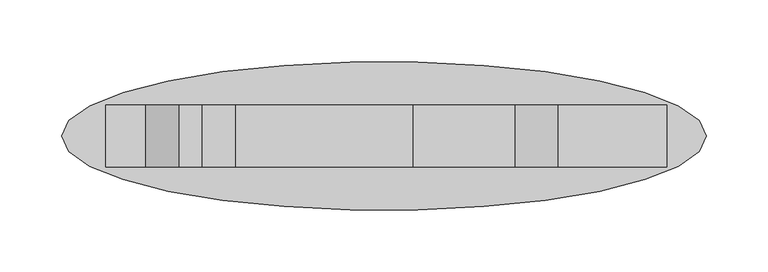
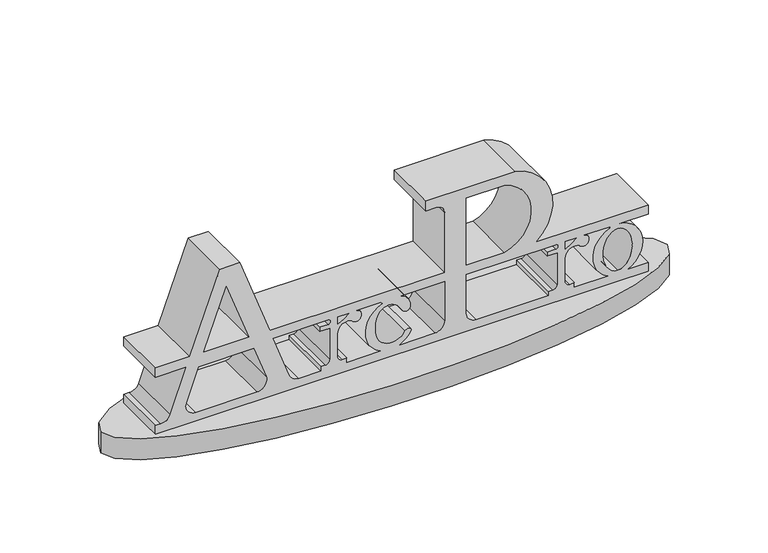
"""IFC4 building model written with IfcOpenShell, lengths in millimetres: proxy geometry, ArcPro Statue : ArcPro Statue."""

from ifc_helpers import new_model, si_unit, point, frame, origin, place, context, project, spatial, polyline, circle_curve, ellipse_curve, trimmed, source, transform, mapped, element, save
from ifc_brep_helpers import plane_surface, cylinder_surface, revolved_surface, extruded_surface, advanced_brep


def generic_models_adb6d911(model_context):
    return source(origin(), model_context, "Body", "AdvancedBrep", [
        advanced_brep(
        [(324.4251984, 0.0, 20.1942604), (-195.5748016, 0.0, 20.1942604), (324.4251984, 0.0, 0.0), (-195.5748016, 0.0, 0.0)],
        [
            (0, 1, ellipse_curve(frame((64.4251984, 0.0, 20.1942604), z_axis=(0.0, 0.0, 1.0), x_axis=(-1.0, 0.0, 0.0)), 260.0, 60.0)),
            (1, 0, ellipse_curve(frame((64.4251984, 0.0, 20.1942604), z_axis=(0.0, 0.0, 1.0), x_axis=(-1.0, 0.0, 0.0)), 260.0, 60.0)),
            (2, 3, ellipse_curve(frame((64.4251984, 0.0, 0.0), z_axis=(0.0, 0.0, -1.0), x_axis=(-1.0, 0.0, 0.0)), 260.0, 60.0)),
            (3, 2, ellipse_curve(frame((64.4251984, 0.0, 0.0), z_axis=(0.0, 0.0, -1.0), x_axis=(-1.0, 0.0, 0.0)), 260.0, 60.0)),
            (0, 2),
            (3, 1),
        ],
        [
            plane_surface(frame((-195.5748016, 0.0, 20.1942604), z_axis=(0.0, 0.0, 1.0), x_axis=(0.0, -1.0, 0.0))),
            plane_surface(frame((-195.5748016, 0.0, 0.0), z_axis=(0.0, 0.0, -1.0), x_axis=(0.0, 1.0, 0.0))),
            extruded_surface(trimmed(ellipse_curve(frame((64.4251984, 0.0, -20.1942604), z_axis=(0.0, 0.0, 1.0), x_axis=(-1.0, 0.0, 0.0)), 260.0, 60.0), [point((324.4251984, 0.0, -20.1942604))], [point((-195.5748016, 0.0, -20.1942604))], True, "CARTESIAN"), (0.0, 0.0, 20.1942604), 20.1942604),
            extruded_surface(trimmed(ellipse_curve(frame((64.4251984, 0.0, -20.1942604), z_axis=(0.0, 0.0, 1.0), x_axis=(-1.0, 0.0, 0.0)), 260.0, 60.0), [point((-195.5748016, 0.0, -20.1942604))], [point((324.4251984, 0.0, -20.1942604))], True, "CARTESIAN"), (0.0, 0.0, 20.1942604), 20.1942604),
        ],
        [
            (0, [[1, 2]]),
            (1, [[3, 4]]),
            (2, [[-1, 5, -4, 6]]),
            (3, [[-2, -6, -3, -5]]),
        ],
    ),
        advanced_brep(
        [(-159.9449231, -25.0, 28.9442604), (-159.9449231, -25.0, 20.1942604), (292.5550769, -25.0, 20.1942604), (292.5550769, -25.0, 28.9442604), (273.1751984, -25.0, 28.9442604), (264.2864752, -25.0, 75.8816405), (292.5550769, -25.0, 75.8816405), (292.5550769, -25.0, 84.8128453), (189.0734598, -25.0, 84.8128453), (170.4950353, -25.0, 160.0), (88.0915147, -25.0, 160.0), (88.0915147, -25.0, 150.6396934), (97.4851093, -25.0, 150.6396934), (105.4950353, -25.0, 142.6297673), (105.4950353, -25.0, 84.8128453), (-55.0790368, -25.0, 84.8128453), (-82.4449231, -25.0, 160.0), (-100.7641808, -25.0, 160.0), (-128.1300671, -25.0, 84.8128453), (-160.0766936, -25.0, 84.8128453), (-160.0766936, -25.0, 75.8816405), (-131.3807598, -25.0, 75.8816405), (-146.3092033, -25.0, 34.8660791), (-154.7664369, -25.0, 28.9442604), (125.4950353, -25.0, 75.8816405), (207.3544989, -25.0, 75.8816405), (207.3544989, -25.0, 71.6558392), (199.8255769, -25.0, 71.6558392), (199.8255769, -25.0, 67.4066965), (208.75, -25.0, 67.4066965), (208.75, -25.0, 37.0447447), (204.75, -25.0, 33.0447447), (200.5361176, -25.0, 33.0447447), (200.5361176, -25.0, 28.9442604), (134.4950353, -25.0, 28.9442604), (125.4950353, -25.0, 37.9442604), (7.5825693, -25.0, 59.9555658), (20.2310978, -25.0, 67.4066965), (25.1241089, -25.0, 75.8816405), (47.1265241, -25.0, 75.8816405), (48.3499831, -25.0, 74.6581814), (46.6477521, -25.0, 28.9442604), (15.7964517, -25.0, 28.9442604), (15.7964517, -25.0, 33.0447447), (11.5825693, -25.0, 33.0447447), (7.5825693, -25.0, 37.0447447), (0.0, -25.0, 37.0447447), (-4.0, -25.0, 33.0447447), (-8.2138824, -25.0, 33.0447447), (-8.2138824, -25.0, 28.9442604), (-28.442667, -25.0, 28.9442604), (-36.8999006, -25.0, 34.8660791), (-51.828344, -25.0, 75.8816405), (-1.3955011, -25.0, 75.8816405), (-1.3955011, -25.0, 71.6558392), (-8.9244231, -25.0, 71.6558392), (-8.9244231, -25.0, 67.4066965), (0.0, -25.0, 67.4066965), (-115.2934171, -25.0, 84.8128453), (-94.7295519, -25.0, 141.3116006), (-74.1656867, -25.0, 84.8128453), (-66.6845168, -25.0, 28.9442604), (-122.774587, -25.0, 28.9442604), (-131.2318206, -25.0, 41.0224417), (-119.9089982, -25.0, 72.1316405), (-69.5501056, -25.0, 72.1316405), (-58.2272832, -25.0, 41.0224417), (96.4144604, -25.0, 28.9442604), (64.4251984, -25.0, 28.9442604), (75.4072973, -25.0, 39.1802657), (69.1662261, -25.0, 40.9150945), (43.3055312, -25.0, 44.0998488), (42.298108, -25.0, 52.8259968), (43.3055312, -25.0, 61.5521448), (46.6530866, -25.0, 67.4272575), (63.5552121, -25.0, 66.0214407), (66.840922, -25.0, 61.1501754), (74.5739603, -25.0, 63.4780564), (65.6111143, -25.0, 75.8816405), (105.4950353, -25.0, 75.8816405), (105.4950353, -25.0, 38.0248353), (255.3977521, -25.0, 28.9442604), (224.5464517, -25.0, 28.9442604), (224.5464517, -25.0, 33.0447447), (220.3325693, -25.0, 33.0447447), (216.3325693, -25.0, 37.0447447), (216.3325693, -25.0, 59.9555658), (228.9810978, -25.0, 67.4066965), (233.8741089, -25.0, 75.8816405), (257.1288877, -25.0, 75.8816405), (257.1288877, -25.0, 74.6682602), (160.4950353, -25.0, 150.0146934), (160.4950353, -25.0, 84.8128453), (125.4950353, -25.0, 84.8128453), (125.4950353, -25.0, 150.0146934), (17.5825693, -25.0, 75.8816405), (7.5825693, -25.0, 68.8561474), (7.5825693, -25.0, 75.8816405), (226.3325693, -25.0, 75.8816405), (216.3325693, -25.0, 68.8561474), (216.3325693, -25.0, 75.8816405), (264.2864752, -25.0, 71.6558392), (264.2864752, -25.0, 31.2714473), (-159.9449231, 25.0, 28.9442604), (-154.7664369, 25.0, 28.9442604), (-146.3092033, 25.0, 34.8660791), (-131.3807598, 25.0, 75.8816405), (-160.0766936, 25.0, 75.8816405), (-160.0766936, 25.0, 84.8128453), (-128.1300671, 25.0, 84.8128453), (-100.7641808, 25.0, 160.0), (-82.4449231, 25.0, 160.0), (-55.0790368, 25.0, 84.8128453), (105.4950353, 25.0, 84.8128453), (105.4950353, 25.0, 142.6297673), (97.4851093, 25.0, 150.6396934), (88.0915147, 25.0, 150.6396934), (88.0915147, 25.0, 160.0), (170.4950353, 25.0, 160.0), (189.0734598, 25.0, 84.8128453), (292.5550769, 25.0, 84.8128453), (292.5550769, 25.0, 75.8816405), (264.2864752, 25.0, 75.8816405), (273.1751984, 25.0, 28.9442604), (292.5550769, 25.0, 28.9442604), (292.5550769, 25.0, 20.1942604), (-159.9449231, 25.0, 20.1942604), (125.4950353, 25.0, 75.8816405), (125.4950353, 25.0, 37.9442604), (134.4950353, 25.0, 28.9442604), (200.5361176, 25.0, 28.9442604), (200.5361176, 25.0, 33.0447447), (204.75, 25.0, 33.0447447), (208.75, 25.0, 37.0447447), (208.75, 25.0, 67.4066965), (199.8255769, 25.0, 67.4066965), (199.8255769, 25.0, 71.6558392), (207.3544989, 25.0, 71.6558392), (207.3544989, 25.0, 75.8816405), (7.5825693, 25.0, 59.9555658), (7.5825693, 25.0, 37.0447447), (11.5825693, 25.0, 33.0447447), (15.7964517, 25.0, 33.0447447), (15.7964517, 25.0, 28.9442604), (46.6477521, 25.0, 28.9442604), (48.3499831, 25.0, 74.6581814), (47.1265241, 25.0, 75.8816405), (25.1241089, 25.0, 75.8816405), (20.2310978, 25.0, 67.4066965), (0.0, 25.0, 37.0447447), (0.0, 25.0, 67.4066965), (-8.9244231, 25.0, 67.4066965), (-8.9244231, 25.0, 71.6558392), (-1.3955011, 25.0, 71.6558392), (-1.3955011, 25.0, 75.8816405), (-51.828344, 25.0, 75.8816405), (-36.8999006, 25.0, 34.8660791), (-28.442667, 25.0, 28.9442604), (-8.2138824, 25.0, 28.9442604), (-8.2138824, 25.0, 33.0447447), (-4.0, 25.0, 33.0447447), (-115.2934171, 25.0, 84.8128453), (-74.1656867, 25.0, 84.8128453), (-94.7295519, 25.0, 141.3116006), (-66.6845168, 25.0, 28.9442604), (-58.2272832, 25.0, 41.0224417), (-69.5501056, 25.0, 72.1316405), (-119.9089982, 25.0, 72.1316405), (-131.2318206, 25.0, 41.0224417), (-122.774587, 25.0, 28.9442604), (96.4144604, 25.0, 28.9442604), (105.4950353, 25.0, 38.0248353), (105.4950353, 25.0, 75.8816405), (65.6111143, 25.0, 75.8816405), (74.5739603, 25.0, 63.4780564), (66.840922, 25.0, 61.1501754), (63.5552121, 25.0, 66.0214407), (46.6530866, 25.0, 67.4272575), (43.3055312, 25.0, 61.5521448), (42.298108, 25.0, 52.8259968), (43.3055312, 25.0, 44.0998488), (69.1662261, 25.0, 40.9150945), (75.4072973, 25.0, 39.1802657), (64.4251984, 25.0, 28.9442604), (255.3977521, 25.0, 28.9442604), (257.1288877, 25.0, 74.6682602), (257.1288877, 25.0, 75.8816405), (233.8741089, 25.0, 75.8816405), (228.9810978, 25.0, 67.4066965), (216.3325693, 25.0, 59.9555658), (216.3325693, 25.0, 37.0447447), (220.3325693, 25.0, 33.0447447), (224.5464517, 25.0, 33.0447447), (224.5464517, 25.0, 28.9442604), (160.4950353, 25.0, 150.0146934), (125.4950353, 25.0, 150.0146934), (125.4950353, 25.0, 84.8128453), (160.4950353, 25.0, 84.8128453), (17.5825693, 25.0, 75.8816405), (7.5825693, 25.0, 75.8816405), (7.5825693, 25.0, 68.8561474), (226.3325693, 25.0, 75.8816405), (216.3325693, 25.0, 75.8816405), (216.3325693, 25.0, 68.8561474), (264.2864752, 25.0, 71.6558392), (264.2864752, 25.0, 31.2714473)],
        [
            (0, 1),
            (1, 2),
            (2, 3),
            (3, 4),
            (4, 5, ellipse_curve(frame((264.2864752, -25.0, 51.4636433), z_axis=(0.0, -1.0, 0.0), x_axis=(0.0, 0.0, -1.0)), 24.4179972, 22.9917286)),
            (5, 6),
            (6, 7),
            (7, 8),
            (8, 9, circle_curve(frame((161.7118893, -25.0, 117.9408202), z_axis=(0.0, -1.0, 0.0), x_axis=(1.0, 0.0, 0.0)), 42.9664783)),
            (9, 10),
            (10, 11),
            (11, 12),
            (12, 13, circle_curve(frame((97.4851093, -25.0, 142.6297673), z_axis=(0.0, 1.0, 0.0), x_axis=(1.0, 0.0, 0.0)), 8.009926)),
            (13, 14),
            (14, 15),
            (15, 16),
            (16, 17),
            (17, 18),
            (18, 19),
            (19, 20),
            (20, 21),
            (21, 22),
            (22, 23, circle_curve(frame((-154.7664369, -25.0, 37.9442604), z_axis=(0.0, 1.0, 0.0), x_axis=(1.0, 0.0, 0.0)), 9.0)),
            (23, 0),
            (24, 25),
            (25, 26, circle_curve(frame((207.3544989, -25.0, 73.7687398), z_axis=(0.0, 1.0, 0.0), x_axis=(1.0, 0.0, 0.0)), 2.1129006)),
            (26, 27),
            (27, 28),
            (28, 29),
            (29, 30),
            (30, 31, circle_curve(frame((204.75, -25.0, 37.0447447), z_axis=(0.0, 1.0, 0.0), x_axis=(1.0, 0.0, 0.0)), 4.0)),
            (31, 32),
            (32, 33),
            (33, 34),
            (34, 35, circle_curve(frame((134.4950353, -25.0, 37.9442604), z_axis=(0.0, 1.0, 0.0), x_axis=(1.0, 0.0, 0.0)), 9.0)),
            (35, 24),
            (36, 37, circle_curve(frame((16.1015295, -25.0, 59.9555658), z_axis=(0.0, 1.0, 0.0), x_axis=(1.0, 0.0, 0.0)), 8.5189602)),
            (37, 38, circle_curve(frame((24.4336944, -25.0, 70.6302889), z_axis=(0.0, -1.0, 0.0), x_axis=(1.0, 0.0, 0.0)), 5.2965428)),
            (38, 39),
            (39, 40),
            (40, 41, ellipse_curve(frame((55.5364752, -25.0, 51.4636433), z_axis=(0.0, -1.0, 0.0), x_axis=(0.0, 0.0, -1.0)), 24.4179972, 22.9917286)),
            (41, 42),
            (42, 43),
            (43, 44),
            (44, 45, circle_curve(frame((11.5825693, -25.0, 37.0447447), z_axis=(0.0, 1.0, 0.0), x_axis=(1.0, 0.0, 0.0)), 4.0)),
            (45, 36),
            (46, 47, circle_curve(frame((-4.0, -25.0, 37.0447447), z_axis=(0.0, 1.0, 0.0), x_axis=(1.0, 0.0, 0.0)), 4.0)),
            (47, 48),
            (48, 49),
            (49, 50),
            (50, 51, circle_curve(frame((-28.442667, -25.0, 37.9442604), z_axis=(0.0, 1.0, 0.0), x_axis=(1.0, 0.0, 0.0)), 9.0)),
            (51, 52),
            (52, 53),
            (53, 54, circle_curve(frame((-1.3955011, -25.0, 73.7687398), z_axis=(0.0, 1.0, 0.0), x_axis=(1.0, 0.0, 0.0)), 2.1129006)),
            (54, 55),
            (55, 56),
            (56, 57),
            (57, 46),
            (58, 59),
            (59, 60),
            (60, 58),
            (61, 62),
            (62, 63, circle_curve(frame((-122.774587, -25.0, 37.9442604), z_axis=(0.0, 1.0, 0.0), x_axis=(1.0, 0.0, 0.0)), 9.0)),
            (63, 64),
            (64, 65),
            (65, 66),
            (66, 61, circle_curve(frame((-66.6845168, -25.0, 37.9442604), z_axis=(0.0, 1.0, 0.0), x_axis=(1.0, 0.0, 0.0)), 9.0)),
            (67, 68),
            (68, 69, ellipse_curve(frame((55.5364752, -25.0, 51.4636433), z_axis=(0.0, -1.0, 0.0), x_axis=(0.0, 0.0, -1.0)), 24.4179972, 22.9917286)),
            (69, 70, circle_curve(frame((71.987116, -25.0, 38.9697005), z_axis=(0.0, -1.0, 0.0), x_axis=(1.0, 0.0, 0.0)), 3.426657)),
            (70, 71, circle_curve(frame((56.9071908, -25.0, 47.9586293), z_axis=(0.0, 1.0, 0.0), x_axis=(1.0, 0.0, 0.0)), 14.1384344)),
            (71, 72, circle_curve(frame((69.583184, -25.0, 51.5547989), z_axis=(0.0, 1.0, 0.0), x_axis=(1.0, 0.0, 0.0)), 27.3146722)),
            (72, 73, circle_curve(frame((69.583184, -25.0, 54.0971947), z_axis=(0.0, 1.0, 0.0), x_axis=(1.0, 0.0, 0.0)), 27.3146722)),
            (73, 74, circle_curve(frame((56.9071908, -25.0, 57.6933643), z_axis=(0.0, 1.0, 0.0), x_axis=(1.0, 0.0, 0.0)), 14.1384344)),
            (74, 75, circle_curve(frame((54.5399134, -25.0, 59.940545), z_axis=(0.0, 1.0, 0.0), x_axis=(1.0, 0.0, 0.0)), 10.874415)),
            (75, 76),
            (76, 77, circle_curve(frame((70.3461038, -25.0, 63.5144504), z_axis=(0.0, -1.0, 0.0), x_axis=(1.0, 0.0, 0.0)), 4.2280132)),
            (77, 78, circle_curve(frame((61.6637413, -25.0, 63.5891894), z_axis=(0.0, -1.0, 0.0), x_axis=(1.0, 0.0, 0.0)), 12.9106974)),
            (78, 79),
            (79, 80),
            (80, 67, circle_curve(frame((96.4144604, -25.0, 38.0248353), z_axis=(0.0, 1.0, 0.0), x_axis=(1.0, 0.0, 0.0)), 9.0805749)),
            (81, 82),
            (82, 83),
            (83, 84),
            (84, 85, circle_curve(frame((220.3325693, -25.0, 37.0447447), z_axis=(0.0, 1.0, 0.0), x_axis=(1.0, 0.0, 0.0)), 4.0)),
            (85, 86),
            (86, 87, circle_curve(frame((224.8515295, -25.0, 59.9555658), z_axis=(0.0, 1.0, 0.0), x_axis=(1.0, 0.0, 0.0)), 8.5189602)),
            (87, 88, circle_curve(frame((233.1836944, -25.0, 70.6302889), z_axis=(0.0, -1.0, 0.0), x_axis=(1.0, 0.0, 0.0)), 5.2965428)),
            (88, 89),
            (89, 90),
            (90, 81, ellipse_curve(frame((264.2864752, -25.0, 51.4636433), z_axis=(0.0, -1.0, 0.0), x_axis=(0.0, 0.0, -1.0)), 24.4179972, 22.9917286)),
            (91, 92, circle_curve(frame((151.0356126, -25.0, 117.4137693), z_axis=(0.0, 1.0, 0.0), x_axis=(1.0, 0.0, 0.0)), 33.9455583)),
            (92, 93),
            (93, 94),
            (94, 91),
            (95, 96, circle_curve(frame((-13.2194948, -25.0, 109.095233), z_axis=(0.0, 1.0, 0.0), x_axis=(1.0, 0.0, 0.0)), 45.2980119)),
            (96, 97),
            (97, 95),
            (98, 99, circle_curve(frame((195.5305052, -25.0, 109.095233), z_axis=(0.0, 1.0, 0.0), x_axis=(1.0, 0.0, 0.0)), 45.2980119)),
            (99, 100),
            (100, 98),
            (101, 102, ellipse_curve(frame((264.2864752, -25.0, 51.4636433), z_axis=(0.0, 1.0, 0.0), x_axis=(0.0, 0.0, -1.0)), 20.1921959, 13.2686017)),
            (102, 101, ellipse_curve(frame((264.2864752, -25.0, 51.4636433), z_axis=(0.0, 1.0, 0.0), x_axis=(0.0, 0.0, -1.0)), 20.1921959, 13.2686017)),
            (103, 104),
            (104, 105, circle_curve(frame((-154.7664369, 25.0, 37.9442604), z_axis=(0.0, -1.0, 0.0), x_axis=(1.0, 0.0, 0.0)), 9.0)),
            (105, 106),
            (106, 107),
            (107, 108),
            (108, 109),
            (109, 110),
            (110, 111),
            (111, 112),
            (112, 113),
            (113, 114),
            (114, 115, circle_curve(frame((97.4851093, 25.0, 142.6297673), z_axis=(0.0, -1.0, 0.0), x_axis=(1.0, 0.0, 0.0)), 8.009926)),
            (115, 116),
            (116, 117),
            (117, 118),
            (118, 119, circle_curve(frame((161.7118893, 25.0, 117.9408202), z_axis=(0.0, 1.0, 0.0), x_axis=(1.0, 0.0, 0.0)), 42.9664783)),
            (119, 120),
            (120, 121),
            (121, 122),
            (122, 123, ellipse_curve(frame((264.2864752, 25.0, 51.4636433), z_axis=(0.0, 1.0, 0.0), x_axis=(-1.0, 0.0, 0.0)), 22.9917286, 24.4179972)),
            (123, 124),
            (124, 125),
            (125, 126),
            (126, 103),
            (127, 128),
            (128, 129, circle_curve(frame((134.4950353, 25.0, 37.9442604), z_axis=(0.0, -1.0, 0.0), x_axis=(1.0, 0.0, 0.0)), 9.0)),
            (129, 130),
            (130, 131),
            (131, 132),
            (132, 133, circle_curve(frame((204.75, 25.0, 37.0447447), z_axis=(0.0, -1.0, 0.0), x_axis=(1.0, 0.0, 0.0)), 4.0)),
            (133, 134),
            (134, 135),
            (135, 136),
            (136, 137),
            (137, 138, circle_curve(frame((207.3544989, 25.0, 73.7687398), z_axis=(0.0, -1.0, 0.0), x_axis=(1.0, 0.0, 0.0)), 2.1129006)),
            (138, 127),
            (139, 140),
            (140, 141, circle_curve(frame((11.5825693, 25.0, 37.0447447), z_axis=(0.0, -1.0, 0.0), x_axis=(1.0, 0.0, 0.0)), 4.0)),
            (141, 142),
            (142, 143),
            (143, 144),
            (144, 145, ellipse_curve(frame((55.5364752, 25.0, 51.4636433), z_axis=(0.0, 1.0, 0.0), x_axis=(0.0, 0.0, -1.0)), 24.4179972, 22.9917286)),
            (145, 146),
            (146, 147),
            (147, 148, circle_curve(frame((24.4336944, 25.0, 70.6302889), z_axis=(0.0, 1.0, 0.0), x_axis=(1.0, 0.0, 0.0)), 5.2965428)),
            (148, 139, circle_curve(frame((16.1015295, 25.0, 59.9555658), z_axis=(0.0, -1.0, 0.0), x_axis=(1.0, 0.0, 0.0)), 8.5189602)),
            (149, 150),
            (150, 151),
            (151, 152),
            (152, 153),
            (153, 154, circle_curve(frame((-1.3955011, 25.0, 73.7687398), z_axis=(0.0, -1.0, 0.0), x_axis=(1.0, 0.0, 0.0)), 2.1129006)),
            (154, 155),
            (155, 156),
            (156, 157, circle_curve(frame((-28.442667, 25.0, 37.9442604), z_axis=(0.0, -1.0, 0.0), x_axis=(1.0, 0.0, 0.0)), 9.0)),
            (157, 158),
            (158, 159),
            (159, 160),
            (160, 149, circle_curve(frame((-4.0, 25.0, 37.0447447), z_axis=(0.0, -1.0, 0.0), x_axis=(1.0, 0.0, 0.0)), 4.0)),
            (161, 162),
            (162, 163),
            (163, 161),
            (164, 165, circle_curve(frame((-66.6845168, 25.0, 37.9442604), z_axis=(0.0, -1.0, 0.0), x_axis=(1.0, 0.0, 0.0)), 9.0)),
            (165, 166),
            (166, 167),
            (167, 168),
            (168, 169, circle_curve(frame((-122.774587, 25.0, 37.9442604), z_axis=(0.0, -1.0, 0.0), x_axis=(1.0, 0.0, 0.0)), 9.0)),
            (169, 164),
            (170, 171, circle_curve(frame((96.4144604, 25.0, 38.0248353), z_axis=(0.0, -1.0, 0.0), x_axis=(1.0, 0.0, 0.0)), 9.0805749)),
            (171, 172),
            (172, 173),
            (173, 174, circle_curve(frame((61.6637413, 25.0, 63.5891894), z_axis=(0.0, 1.0, 0.0), x_axis=(1.0, 0.0, 0.0)), 12.9106974)),
            (174, 175, circle_curve(frame((70.3461038, 25.0, 63.5144504), z_axis=(0.0, 1.0, 0.0), x_axis=(1.0, 0.0, 0.0)), 4.2280132)),
            (175, 176),
            (176, 177, circle_curve(frame((54.5399134, 25.0, 59.940545), z_axis=(0.0, -1.0, 0.0), x_axis=(1.0, 0.0, 0.0)), 10.874415)),
            (177, 178, circle_curve(frame((56.9071908, 25.0, 57.6933643), z_axis=(0.0, -1.0, 0.0), x_axis=(1.0, 0.0, 0.0)), 14.1384344)),
            (178, 179, circle_curve(frame((69.583184, 25.0, 54.0971947), z_axis=(0.0, -1.0, 0.0), x_axis=(1.0, 0.0, 0.0)), 27.3146722)),
            (179, 180, circle_curve(frame((69.583184, 25.0, 51.5547989), z_axis=(0.0, -1.0, 0.0), x_axis=(1.0, 0.0, 0.0)), 27.3146722)),
            (180, 181, circle_curve(frame((56.9071908, 25.0, 47.9586293), z_axis=(0.0, -1.0, 0.0), x_axis=(1.0, 0.0, 0.0)), 14.1384344)),
            (181, 182, circle_curve(frame((71.987116, 25.0, 38.9697005), z_axis=(0.0, 1.0, 0.0), x_axis=(1.0, 0.0, 0.0)), 3.426657)),
            (182, 183, ellipse_curve(frame((55.5364752, 25.0, 51.4636433), z_axis=(0.0, 1.0, 0.0), x_axis=(0.0, 0.0, -1.0)), 24.4179972, 22.9917286)),
            (183, 170),
            (184, 185, ellipse_curve(frame((264.2864752, 25.0, 51.4636433), z_axis=(0.0, 1.0, 0.0), x_axis=(0.0, 0.0, -1.0)), 24.4179972, 22.9917286)),
            (185, 186),
            (186, 187),
            (187, 188, circle_curve(frame((233.1836944, 25.0, 70.6302889), z_axis=(0.0, 1.0, 0.0), x_axis=(1.0, 0.0, 0.0)), 5.2965428)),
            (188, 189, circle_curve(frame((224.8515295, 25.0, 59.9555658), z_axis=(0.0, -1.0, 0.0), x_axis=(1.0, 0.0, 0.0)), 8.5189602)),
            (189, 190),
            (190, 191, circle_curve(frame((220.3325693, 25.0, 37.0447447), z_axis=(0.0, -1.0, 0.0), x_axis=(1.0, 0.0, 0.0)), 4.0)),
            (191, 192),
            (192, 193),
            (193, 184),
            (194, 195),
            (195, 196),
            (196, 197),
            (197, 194, circle_curve(frame((151.0356126, 25.0, 117.4137693), z_axis=(0.0, -1.0, 0.0), x_axis=(1.0, 0.0, 0.0)), 33.9455583)),
            (198, 199),
            (199, 200),
            (200, 198, circle_curve(frame((-13.2194948, 25.0, 109.095233), z_axis=(0.0, -1.0, 0.0), x_axis=(1.0, 0.0, 0.0)), 45.2980119)),
            (201, 202),
            (202, 203),
            (203, 201, circle_curve(frame((195.5305052, 25.0, 109.095233), z_axis=(0.0, -1.0, 0.0), x_axis=(1.0, 0.0, 0.0)), 45.2980119)),
            (204, 205, ellipse_curve(frame((264.2864752, 25.0, 51.4636433), z_axis=(0.0, -1.0, 0.0), x_axis=(0.0, 0.0, -1.0)), 20.1921959, 13.2686017)),
            (205, 204, ellipse_curve(frame((264.2864752, 25.0, 51.4636433), z_axis=(0.0, -1.0, 0.0), x_axis=(0.0, 0.0, -1.0)), 20.1921959, 13.2686017)),
            (0, 103),
            (126, 1),
            (125, 2),
            (124, 3),
            (123, 4),
            (122, 5),
            (121, 6),
            (120, 7),
            (119, 8),
            (118, 9),
            (117, 10),
            (116, 11),
            (115, 12),
            (114, 13),
            (113, 14),
            (112, 15),
            (111, 16),
            (110, 17),
            (109, 18),
            (108, 19),
            (107, 20),
            (106, 21),
            (105, 22),
            (104, 23),
            (24, 127),
            (138, 25),
            (137, 26),
            (136, 27),
            (135, 28),
            (134, 29),
            (133, 30),
            (132, 31),
            (131, 32),
            (130, 33),
            (129, 34),
            (128, 35),
            (36, 139),
            (148, 37),
            (147, 38),
            (146, 39),
            (145, 40),
            (144, 41),
            (143, 42),
            (142, 43),
            (141, 44),
            (140, 45),
            (46, 149),
            (160, 47),
            (159, 48),
            (158, 49),
            (157, 50),
            (156, 51),
            (155, 52),
            (154, 53),
            (153, 54),
            (152, 55),
            (151, 56),
            (150, 57),
            (58, 161),
            (163, 59),
            (162, 60),
            (61, 164),
            (169, 62),
            (168, 63),
            (167, 64),
            (166, 65),
            (165, 66),
            (67, 170),
            (183, 68),
            (182, 69),
            (181, 70),
            (180, 71),
            (179, 72),
            (178, 73),
            (177, 74),
            (176, 75),
            (175, 76),
            (174, 77),
            (173, 78),
            (172, 79),
            (171, 80),
            (81, 184),
            (193, 82),
            (192, 83),
            (191, 84),
            (190, 85),
            (189, 86),
            (188, 87),
            (187, 88),
            (186, 89),
            (185, 90),
            (91, 194),
            (197, 92),
            (196, 93),
            (195, 94),
            (95, 198),
            (200, 96),
            (199, 97),
            (98, 201),
            (203, 99),
            (202, 100),
            (101, 204),
            (205, 102),
        ],
        [
            plane_surface(frame((-159.9449231, -25.0, 30.1942604), z_axis=(0.0, -1.0, 0.0), x_axis=(0.0, 0.0, -1.0))),
            plane_surface(frame((-159.9449231, 25.0, 30.1942604), z_axis=(0.0, 1.0, 0.0), x_axis=(0.0, 0.0, 1.0))),
            plane_surface(frame((-159.9449231, -25.0, 28.9442604), z_axis=(-1.0, 0.0, 0.0), x_axis=(0.0, 1.0, 0.0))),
            plane_surface(frame((-159.9449231, -25.0, 20.1942604), z_axis=(0.0, 0.0, -1.0), x_axis=(0.0, 1.0, 0.0))),
            plane_surface(frame((292.5550769, -25.0, 20.1942604), z_axis=(1.0, 0.0, 0.0), x_axis=(0.0, 1.0, 0.0))),
            plane_surface(frame((292.5550769, -25.0, 28.9442604), z_axis=(0.0, 0.0, 1.0), x_axis=(0.0, 1.0, 0.0))),
            extruded_surface(trimmed(ellipse_curve(frame((264.2864752, 75.0, 51.4636433), z_axis=(0.0, -1.0, 0.0), x_axis=(-1.0, 0.0, 0.0)), 22.9917286, 24.4179972), [point((273.1751984, 75.0, 28.9442604))], [point((264.2864752, 75.0, 75.8816405))], True, "CARTESIAN"), (0.0, -50.0, 0.0), 50.0),
            plane_surface(frame((264.2864752, -25.0, 75.8816405), z_axis=(0.0, 0.0, -1.0), x_axis=(0.0, 1.0, 0.0))),
            plane_surface(frame((292.5550769, -25.0, 75.8816405), z_axis=(1.0, 0.0, 0.0), x_axis=(0.0, 1.0, 0.0))),
            plane_surface(frame((292.5550769, -25.0, 84.8128453), z_axis=(0.0, 0.0, 1.0), x_axis=(0.0, 1.0, 0.0))),
            cylinder_surface(frame((161.7118893, 25.0, 117.9408202), z_axis=(0.0, -1.0, 0.0), x_axis=(1.0, 0.0, 0.0)), 42.9664783),
            plane_surface(frame((170.4950353, -25.0, 160.0), z_axis=(0.0, 0.0, 1.0), x_axis=(0.0, 1.0, 0.0))),
            plane_surface(frame((88.0915147, -25.0, 160.0), z_axis=(-1.0, 0.0, 0.0), x_axis=(0.0, 1.0, 0.0))),
            plane_surface(frame((88.0915147, -25.0, 150.6396934), z_axis=(0.0, 0.0, -1.0), x_axis=(0.0, 1.0, 0.0))),
            revolved_surface(polyline([(105.49503530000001, 25.0, 142.6297673), (105.49503530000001, -25.0, 142.6297673)]), (97.4851093, 25.0, 142.6297673), (0.0, 1.0, 0.0)),
            plane_surface(frame((105.4950353, -25.0, 142.6297673), z_axis=(-1.0, 0.0, 0.0), x_axis=(0.0, 1.0, 0.0))),
            plane_surface(frame((105.4950353, -25.0, 84.8128453), z_axis=(0.0, 0.0, 1.0), x_axis=(0.0, 1.0, 0.0))),
            plane_surface(frame((-55.0790368, -25.0, 84.8128453), z_axis=(0.9396926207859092, 0.0, 0.3420201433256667), x_axis=(0.0, 1.0, 0.0))),
            plane_surface(frame((-82.4449231, -25.0, 160.0), z_axis=(0.0, 0.0, 1.0), x_axis=(0.0, 1.0, 0.0))),
            plane_surface(frame((-100.7641808, -25.0, 160.0), z_axis=(-0.9396926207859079, 0.0, 0.3420201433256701), x_axis=(0.0, 1.0, 0.0))),
            plane_surface(frame((-128.1300671, -25.0, 84.8128453), z_axis=(0.0, 0.0, 1.0), x_axis=(0.0, 1.0, 0.0))),
            plane_surface(frame((-160.0766936, -25.0, 84.8128453), z_axis=(-1.0, 0.0, 0.0), x_axis=(0.0, 1.0, 0.0))),
            plane_surface(frame((-160.0766936, -25.0, 75.8816405), z_axis=(0.0, 0.0, -1.0), x_axis=(0.0, 1.0, 0.0))),
            plane_surface(frame((-131.3807598, -25.0, 75.8816405), z_axis=(-0.9396926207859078, 0.0, 0.3420201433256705), x_axis=(0.0, 1.0, 0.0))),
            revolved_surface(polyline([(-145.7664369, 25.0, 37.9442604), (-145.7664369, -25.0, 37.9442604)]), (-154.7664369, 25.0, 37.9442604), (0.0, 1.0, 0.0)),
            plane_surface(frame((-154.7664369, -25.0, 28.9442604), z_axis=(0.0, 0.0, 1.0), x_axis=(0.0, 1.0, 0.0))),
            plane_surface(frame((125.4950353, -25.0, 75.8816405), z_axis=(0.0, 0.0, -1.0), x_axis=(0.0, 1.0, 0.0))),
            revolved_surface(polyline([(209.4673995, 25.0, 73.7687398), (209.4673995, -25.0, 73.7687398)]), (207.3544989, 0.0, 73.7687398), (0.0, 1.0, 0.0)),
            plane_surface(frame((207.3544989, -25.0, 71.6558392), z_axis=(0.0, 0.0, 1.0), x_axis=(0.0, 1.0, 0.0))),
            plane_surface(frame((199.8255769, -25.0, 71.6558392), z_axis=(-1.0, 0.0, 0.0), x_axis=(0.0, 1.0, 0.0))),
            plane_surface(frame((199.8255769, -25.0, 67.4066965), z_axis=(0.0, 0.0, -1.0), x_axis=(0.0, 1.0, 0.0))),
            plane_surface(frame((208.75, -25.0, 67.4066965), z_axis=(-1.0, 0.0, 0.0), x_axis=(0.0, 1.0, 0.0))),
            revolved_surface(polyline([(208.75, 25.0, 37.0447447), (208.75, -25.0, 37.0447447)]), (204.75, 0.0, 37.0447447), (0.0, 1.0, 0.0)),
            plane_surface(frame((204.75, -25.0, 33.0447447), z_axis=(0.0, 0.0, 1.0), x_axis=(0.0, 1.0, 0.0))),
            plane_surface(frame((200.5361176, -25.0, 33.0447447), z_axis=(-1.0, 0.0, 0.0), x_axis=(0.0, 1.0, 0.0))),
            plane_surface(frame((200.5361176, -25.0, 28.9442604), z_axis=(0.0, 0.0, 1.0), x_axis=(0.0, 1.0, 0.0))),
            revolved_surface(polyline([(143.4950353, 25.0, 37.9442604), (143.4950353, -25.0, 37.9442604)]), (134.4950353, 0.0, 37.9442604), (0.0, 1.0, 0.0)),
            plane_surface(frame((125.4950353, -25.0, 37.9442604), z_axis=(1.0, 0.0, 0.0), x_axis=(0.0, 1.0, 0.0))),
            revolved_surface(polyline([(24.6204897, 25.0, 59.9555658), (24.6204897, -25.0, 59.9555658)]), (16.1015295, 0.0, 59.9555658), (0.0, 1.0, 0.0)),
            cylinder_surface(frame((24.4336944, 0.0, 70.6302889), z_axis=(0.0, -1.0, 0.0), x_axis=(1.0, 0.0, 0.0)), 5.2965428),
            plane_surface(frame((25.1241089, -25.0, 75.8816405), z_axis=(0.0, 0.0, -1.0), x_axis=(0.0, 1.0, 0.0))),
            plane_surface(frame((47.1265241, -25.0, 75.8816405), z_axis=(-0.7071067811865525, 0.0, -0.7071067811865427), x_axis=(0.0, 1.0, 0.0))),
            extruded_surface(trimmed(ellipse_curve(frame((55.5364752, 50.0, 51.4636433), z_axis=(0.0, -1.0, 0.0), x_axis=(-1.0, 0.0, 0.0)), 22.9917286, 24.4179972), [point((48.3499831, 50.0, 74.6581814))], [point((46.6477521, 50.0, 28.9442604))], True, "CARTESIAN"), (0.0, -50.0, 0.0), 50.0),
            plane_surface(frame((46.6477521, -25.0, 28.9442604), z_axis=(0.0, 0.0, 1.0), x_axis=(0.0, 1.0, 0.0))),
            plane_surface(frame((15.7964517, -25.0, 28.9442604), z_axis=(1.0, 0.0, 0.0), x_axis=(0.0, 1.0, 0.0))),
            plane_surface(frame((15.7964517, -25.0, 33.0447447), z_axis=(0.0, 0.0, 1.0), x_axis=(0.0, 1.0, 0.0))),
            revolved_surface(polyline([(15.5825693, 25.0, 37.0447447), (15.5825693, -25.0, 37.0447447)]), (11.5825693, 0.0, 37.0447447), (0.0, 1.0, 0.0)),
            plane_surface(frame((7.5825693, -25.0, 37.0447447), z_axis=(1.0, 0.0, 0.0), x_axis=(0.0, 1.0, 0.0))),
            revolved_surface(polyline([(0.0, 25.0, 37.0447447), (0.0, -25.0, 37.0447447)]), (-4.0, 0.0, 37.0447447), (0.0, 1.0, 0.0)),
            plane_surface(frame((-4.0, -25.0, 33.0447447), z_axis=(0.0, 0.0, 1.0), x_axis=(0.0, 1.0, 0.0))),
            plane_surface(frame((-8.2138824, -25.0, 33.0447447), z_axis=(-1.0, 0.0, 0.0), x_axis=(0.0, 1.0, 0.0))),
            plane_surface(frame((-8.2138824, -25.0, 28.9442604), z_axis=(0.0, 0.0, 1.0), x_axis=(0.0, 1.0, 0.0))),
            revolved_surface(polyline([(-19.442667, 25.0, 37.9442604), (-19.442667, -25.0, 37.9442604)]), (-28.442667, 0.0, 37.9442604), (0.0, 1.0, 0.0)),
            plane_surface(frame((-36.8999006, -25.0, 34.8660791), z_axis=(0.9396926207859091, 0.0, 0.34202014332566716), x_axis=(0.0, 1.0, 0.0))),
            plane_surface(frame((-51.828344, -25.0, 75.8816405), z_axis=(0.0, 0.0, -1.0), x_axis=(0.0, 1.0, 0.0))),
            revolved_surface(polyline([(0.7173995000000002, 25.0, 73.7687398), (0.7173995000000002, -25.0, 73.7687398)]), (-1.3955011, 0.0, 73.7687398), (0.0, 1.0, 0.0)),
            plane_surface(frame((-1.3955011, -25.0, 71.6558392), z_axis=(0.0, 0.0, 1.0), x_axis=(0.0, 1.0, 0.0))),
            plane_surface(frame((-8.9244231, -25.0, 71.6558392), z_axis=(-1.0, 0.0, 0.0), x_axis=(0.0, 1.0, 0.0))),
            plane_surface(frame((-8.9244231, -25.0, 67.4066965), z_axis=(0.0, 0.0, -1.0), x_axis=(0.0, 1.0, 0.0))),
            plane_surface(frame((0.0, -25.0, 67.4066965), z_axis=(-1.0, 0.0, 0.0), x_axis=(0.0, 1.0, 0.0))),
            plane_surface(frame((-115.2934171, -25.0, 84.8128453), z_axis=(0.9396926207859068, 0.0, -0.34202014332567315), x_axis=(0.0, 1.0, 0.0))),
            plane_surface(frame((-94.7295519, -25.0, 141.3116006), z_axis=(-0.9396926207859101, 0.0, -0.3420201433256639), x_axis=(0.0, 1.0, 0.0))),
            plane_surface(frame((-74.1656867, -25.0, 84.8128453), z_axis=(0.0, 0.0, 1.0), x_axis=(0.0, 1.0, 0.0))),
            plane_surface(frame((-66.6845168, -25.0, 28.9442604), z_axis=(0.0, 0.0, 1.0), x_axis=(0.0, 1.0, 0.0))),
            revolved_surface(polyline([(-113.774587, 25.0, 37.9442604), (-113.774587, -25.0, 37.9442604)]), (-122.774587, 0.0, 37.9442604), (0.0, 1.0, 0.0)),
            plane_surface(frame((-131.2318206, -25.0, 41.0224417), z_axis=(0.9396926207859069, 0.0, -0.342020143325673), x_axis=(0.0, 1.0, 0.0))),
            plane_surface(frame((-119.9089982, -25.0, 72.1316405), z_axis=(0.0, 0.0, -1.0), x_axis=(0.0, 1.0, 0.0))),
            plane_surface(frame((-69.5501056, -25.0, 72.1316405), z_axis=(-0.9396926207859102, 0.0, -0.3420201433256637), x_axis=(0.0, 1.0, 0.0))),
            revolved_surface(polyline([(-57.6845168, 25.0, 37.9442604), (-57.6845168, -25.0, 37.9442604)]), (-66.6845168, 0.0, 37.9442604), (0.0, 1.0, 0.0)),
            plane_surface(frame((96.4144604, -25.0, 28.9442604), z_axis=(0.0, 0.0, 1.0), x_axis=(0.0, 1.0, 0.0))),
            extruded_surface(trimmed(ellipse_curve(frame((55.5364752, 50.0, 51.4636433), z_axis=(0.0, -1.0, 0.0), x_axis=(-1.0, 0.0, 0.0)), 22.9917286, 24.4179972), [point((64.4251984, 50.0, 28.9442604))], [point((75.4072973, 50.0, 39.1802657))], True, "CARTESIAN"), (0.0, -50.0, 0.0), 50.0),
            cylinder_surface(frame((71.987116, 0.0, 38.9697005), z_axis=(0.0, -1.0, 0.0), x_axis=(1.0, 0.0, 0.0)), 3.426657),
            revolved_surface(polyline([(71.0456252, 25.0, 47.9586293), (71.0456252, -25.0, 47.9586293)]), (56.9071908, 0.0, 47.9586293), (0.0, 1.0, 0.0)),
            revolved_surface(polyline([(96.8978562, 25.0, 51.5547989), (96.8978562, -25.0, 51.5547989)]), (69.583184, 0.0, 51.5547989), (0.0, 1.0, 0.0)),
            revolved_surface(polyline([(96.8978562, 25.0, 54.0971947), (96.8978562, -25.0, 54.0971947)]), (69.583184, 0.0, 54.0971947), (0.0, 1.0, 0.0)),
            revolved_surface(polyline([(71.0456252, 25.0, 57.6933643), (71.0456252, -25.0, 57.6933643)]), (56.9071908, 0.0, 57.6933643), (0.0, 1.0, 0.0)),
            revolved_surface(polyline([(65.4143284, 25.0, 59.940545), (65.4143284, -25.0, 59.940545)]), (54.5399134, 0.0, 59.940545), (0.0, 1.0, 0.0)),
            plane_surface(frame((63.5552121, -25.0, 66.0214407), z_axis=(-0.8290375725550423, 0.0, -0.559192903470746), x_axis=(0.0, 1.0, 0.0))),
            cylinder_surface(frame((70.3461038, 0.0, 63.5144504), z_axis=(0.0, -1.0, 0.0), x_axis=(1.0, 0.0, 0.0)), 4.2280132),
            cylinder_surface(frame((61.6637413, 0.0, 63.5891894), z_axis=(0.0, -1.0, 0.0), x_axis=(1.0, 0.0, 0.0)), 12.9106974),
            plane_surface(frame((65.6111143, -25.0, 75.8816405), z_axis=(0.0, 0.0, -1.0), x_axis=(0.0, 1.0, 0.0))),
            plane_surface(frame((105.4950353, -25.0, 75.8816405), z_axis=(-1.0, 0.0, 0.0), x_axis=(0.0, 1.0, 0.0))),
            revolved_surface(polyline([(105.4950353, 25.0, 38.0248353), (105.4950353, -25.0, 38.0248353)]), (96.4144604, 0.0, 38.0248353), (0.0, 1.0, 0.0)),
            plane_surface(frame((255.3977521, -25.0, 28.9442604), z_axis=(0.0, 0.0, 1.0), x_axis=(0.0, 1.0, 0.0))),
            plane_surface(frame((224.5464517, -25.0, 28.9442604), z_axis=(1.0, 0.0, 0.0), x_axis=(0.0, 1.0, 0.0))),
            plane_surface(frame((224.5464517, -25.0, 33.0447447), z_axis=(0.0, 0.0, 1.0), x_axis=(0.0, 1.0, 0.0))),
            revolved_surface(polyline([(224.3325693, 25.0, 37.0447447), (224.3325693, -25.0, 37.0447447)]), (220.3325693, 0.0, 37.0447447), (0.0, 1.0, 0.0)),
            plane_surface(frame((216.3325693, -25.0, 37.0447447), z_axis=(1.0, 0.0, 0.0), x_axis=(0.0, 1.0, 0.0))),
            revolved_surface(polyline([(233.3704897, 25.0, 59.9555658), (233.3704897, -25.0, 59.9555658)]), (224.8515295, 0.0, 59.9555658), (0.0, 1.0, 0.0)),
            cylinder_surface(frame((233.1836944, 0.0, 70.6302889), z_axis=(0.0, -1.0, 0.0), x_axis=(1.0, 0.0, 0.0)), 5.2965428),
            plane_surface(frame((233.8741089, -25.0, 75.8816405), z_axis=(0.0, 0.0, -1.0), x_axis=(0.0, 1.0, 0.0))),
            plane_surface(frame((257.1288877, -25.0, 75.8816405), z_axis=(-1.0, 0.0, 0.0), x_axis=(0.0, 1.0, 0.0))),
            extruded_surface(trimmed(ellipse_curve(frame((264.2864752, 50.0, 51.4636433), z_axis=(0.0, -1.0, 0.0), x_axis=(-1.0, 0.0, 0.0)), 22.9917286, 24.4179972), [point((257.1288877, 50.0, 74.6682602))], [point((255.3977521, 50.0, 28.9442604))], True, "CARTESIAN"), (0.0, -50.0, 0.0), 50.0),
            revolved_surface(polyline([(184.9811709, 25.0, 117.4137693), (184.9811709, -25.0, 117.4137693)]), (151.0356126, 0.0, 117.4137693), (0.0, 1.0, 0.0)),
            plane_surface(frame((160.4950353, -25.0, 84.8128453), z_axis=(0.0, 0.0, 1.0), x_axis=(0.0, 1.0, 0.0))),
            plane_surface(frame((125.4950353, -25.0, 84.8128453), z_axis=(1.0, 0.0, 0.0), x_axis=(0.0, 1.0, 0.0))),
            plane_surface(frame((125.4950353, -25.0, 150.0146934), z_axis=(0.0, 0.0, -1.0), x_axis=(0.0, 1.0, 0.0))),
            revolved_surface(polyline([(32.0785171, 25.0, 109.095233), (32.0785171, -25.0, 109.095233)]), (-13.2194948, 0.0, 109.095233), (0.0, 1.0, 0.0)),
            plane_surface(frame((7.5825693, -25.0, 68.8561474), z_axis=(1.0, 0.0, 0.0), x_axis=(0.0, 1.0, 0.0))),
            plane_surface(frame((7.5825693, -25.0, 75.8816405), z_axis=(0.0, 0.0, -1.0), x_axis=(0.0, 1.0, 0.0))),
            revolved_surface(polyline([(240.8285171, 25.0, 109.095233), (240.8285171, -25.0, 109.095233)]), (195.5305052, 0.0, 109.095233), (0.0, 1.0, 0.0)),
            plane_surface(frame((216.3325693, -25.0, 68.8561474), z_axis=(1.0, 0.0, 0.0), x_axis=(0.0, 1.0, 0.0))),
            plane_surface(frame((216.3325693, -25.0, 75.8816405), z_axis=(0.0, 0.0, -1.0), x_axis=(0.0, 1.0, 0.0))),
            extruded_surface(trimmed(ellipse_curve(frame((264.2864752, 50.0, 51.4636433), z_axis=(0.0, 1.0, 0.0), x_axis=(0.0, 0.0, -1.0)), 20.1921959, 13.2686017), [point((264.2864752, 50.0, 71.6558392))], [point((264.2864752, 50.0, 31.2714473))], True, "CARTESIAN"), (0.0, -50.0, 0.0), 50.0),
            extruded_surface(trimmed(ellipse_curve(frame((264.2864752, 50.0, 51.4636433), z_axis=(0.0, 1.0, 0.0), x_axis=(0.0, 0.0, -1.0)), 20.1921959, 13.2686017), [point((264.2864752, 50.0, 31.2714473))], [point((264.2864752, 50.0, 71.6558392))], True, "CARTESIAN"), (0.0, -50.0, 0.0), 50.0),
        ],
        [
            (0, [[1, 2, 3, 4, 5, 6, 7, 8, 9, 10, 11, 12, 13, 14, 15, 16, 17, 18, 19, 20, 21, 22, 23, 24], [25, 26, 27, 28, 29, 30, 31, 32, 33, 34, 35, 36], [37, 38, 39, 40, 41, 42, 43, 44, 45, 46], [47, 48, 49, 50, 51, 52, 53, 54, 55, 56, 57, 58], [59, 60, 61], [62, 63, 64, 65, 66, 67], [68, 69, 70, 71, 72, 73, 74, 75, 76, 77, 78, 79, 80, 81], [82, 83, 84, 85, 86, 87, 88, 89, 90, 91], [92, 93, 94, 95], [96, 97, 98], [99, 100, 101], [102, 103]]),
            (1, [[104, 105, 106, 107, 108, 109, 110, 111, 112, 113, 114, 115, 116, 117, 118, 119, 120, 121, 122, 123, 124, 125, 126, 127], [128, 129, 130, 131, 132, 133, 134, 135, 136, 137, 138, 139], [140, 141, 142, 143, 144, 145, 146, 147, 148, 149], [150, 151, 152, 153, 154, 155, 156, 157, 158, 159, 160, 161], [162, 163, 164], [165, 166, 167, 168, 169, 170], [171, 172, 173, 174, 175, 176, 177, 178, 179, 180, 181, 182, 183, 184], [185, 186, 187, 188, 189, 190, 191, 192, 193, 194], [195, 196, 197, 198], [199, 200, 201], [202, 203, 204], [205, 206]]),
            (2, [[-1, 207, -127, 208]]),
            (3, [[-2, -208, -126, 209]]),
            (4, [[-3, -209, -125, 210]]),
            (5, [[-4, -210, -124, 211]]),
            (6, [[-5, -211, -123, 212]]),
            (7, [[-6, -212, -122, 213]]),
            (8, [[-7, -213, -121, 214]]),
            (9, [[-8, -214, -120, 215]]),
            (10, [[-9, -215, -119, 216]]),
            (11, [[-10, -216, -118, 217]]),
            (12, [[-11, -217, -117, 218]]),
            (13, [[-12, -218, -116, 219]]),
            (14, [[-13, -219, -115, 220]]),
            (15, [[-14, -220, -114, 221]]),
            (16, [[-15, -221, -113, 222]]),
            (17, [[-16, -222, -112, 223]]),
            (18, [[-17, -223, -111, 224]]),
            (19, [[-18, -224, -110, 225]]),
            (20, [[-19, -225, -109, 226]]),
            (21, [[-20, -226, -108, 227]]),
            (22, [[-21, -227, -107, 228]]),
            (23, [[-22, -228, -106, 229]]),
            (24, [[-23, -229, -105, 230]]),
            (25, [[-24, -230, -104, -207]]),
            (26, [[-25, 231, -139, 232]]),
            (27, [[-26, -232, -138, 233]]),
            (28, [[-27, -233, -137, 234]]),
            (29, [[-28, -234, -136, 235]]),
            (30, [[-29, -235, -135, 236]]),
            (31, [[-30, -236, -134, 237]]),
            (32, [[-31, -237, -133, 238]]),
            (33, [[-32, -238, -132, 239]]),
            (34, [[-33, -239, -131, 240]]),
            (35, [[-34, -240, -130, 241]]),
            (36, [[-35, -241, -129, 242]]),
            (37, [[-36, -242, -128, -231]]),
            (38, [[-37, 243, -149, 244]]),
            (39, [[-38, -244, -148, 245]]),
            (40, [[-39, -245, -147, 246]]),
            (41, [[-40, -246, -146, 247]]),
            (42, [[-41, -247, -145, 248]]),
            (43, [[-42, -248, -144, 249]]),
            (44, [[-43, -249, -143, 250]]),
            (45, [[-44, -250, -142, 251]]),
            (46, [[-45, -251, -141, 252]]),
            (47, [[-46, -252, -140, -243]]),
            (48, [[-47, 253, -161, 254]]),
            (49, [[-48, -254, -160, 255]]),
            (50, [[-49, -255, -159, 256]]),
            (51, [[-50, -256, -158, 257]]),
            (52, [[-51, -257, -157, 258]]),
            (53, [[-52, -258, -156, 259]]),
            (54, [[-53, -259, -155, 260]]),
            (55, [[-54, -260, -154, 261]]),
            (56, [[-55, -261, -153, 262]]),
            (57, [[-56, -262, -152, 263]]),
            (58, [[-57, -263, -151, 264]]),
            (59, [[-58, -264, -150, -253]]),
            (60, [[-59, 265, -164, 266]]),
            (61, [[-60, -266, -163, 267]]),
            (62, [[-61, -267, -162, -265]]),
            (63, [[-62, 268, -170, 269]]),
            (64, [[-63, -269, -169, 270]]),
            (65, [[-64, -270, -168, 271]]),
            (66, [[-65, -271, -167, 272]]),
            (67, [[-66, -272, -166, 273]]),
            (68, [[-67, -273, -165, -268]]),
            (69, [[-68, 274, -184, 275]]),
            (70, [[-69, -275, -183, 276]]),
            (71, [[-70, -276, -182, 277]]),
            (72, [[-71, -277, -181, 278]]),
            (73, [[-72, -278, -180, 279]]),
            (74, [[-73, -279, -179, 280]]),
            (75, [[-74, -280, -178, 281]]),
            (76, [[-75, -281, -177, 282]]),
            (77, [[-76, -282, -176, 283]]),
            (78, [[-77, -283, -175, 284]]),
            (79, [[-78, -284, -174, 285]]),
            (80, [[-79, -285, -173, 286]]),
            (81, [[-80, -286, -172, 287]]),
            (82, [[-81, -287, -171, -274]]),
            (83, [[-82, 288, -194, 289]]),
            (84, [[-83, -289, -193, 290]]),
            (85, [[-84, -290, -192, 291]]),
            (86, [[-85, -291, -191, 292]]),
            (87, [[-86, -292, -190, 293]]),
            (88, [[-87, -293, -189, 294]]),
            (89, [[-88, -294, -188, 295]]),
            (90, [[-89, -295, -187, 296]]),
            (91, [[-90, -296, -186, 297]]),
            (92, [[-91, -297, -185, -288]]),
            (93, [[-92, 298, -198, 299]]),
            (94, [[-93, -299, -197, 300]]),
            (95, [[-94, -300, -196, 301]]),
            (96, [[-95, -301, -195, -298]]),
            (97, [[-96, 302, -201, 303]]),
            (98, [[-97, -303, -200, 304]]),
            (99, [[-98, -304, -199, -302]]),
            (100, [[-99, 305, -204, 306]]),
            (101, [[-100, -306, -203, 307]]),
            (102, [[-101, -307, -202, -305]]),
            (103, [[-102, 308, -206, 309]]),
            (104, [[-103, -309, -205, -308]]),
        ],
    ),
    ])


if __name__ == "__main__":
    model = new_model("IFC4")
    model_context = context("Model", 3, world=origin())
    ifc_project = project(units=[si_unit("LENGTHUNIT", "METRE", prefix="MILLI")], contexts=[model_context])
    site = spatial("IfcSite", under=ifc_project)
    building = spatial("IfcBuilding", under=site)
    placement = place(None, origin())
    generic_models_shape = generic_models_adb6d911(model_context)
    element("IfcBuildingElementProxy", 1, Name="ArcPro Statue : ArcPro Statue", ObjectType="ArcPro Statue : ArcPro Statue", at=placement, inside=building, context=model_context, shape_type="MappedRepresentation", body=[
        mapped(generic_models_shape, transform((0.0, 0.0, 0.0), x_axis=(1.0, 0.0, 0.0), y_axis=(0.0, 1.0, 0.0), z_axis=(0.0, 0.0, 1.0))),
    ])
    save(model, "model.ifc")
